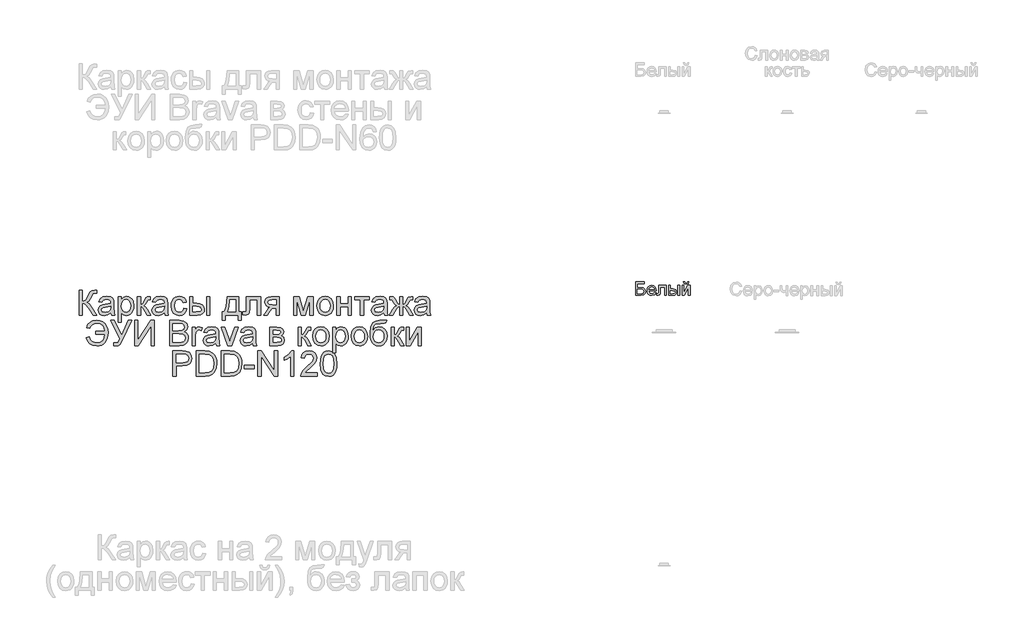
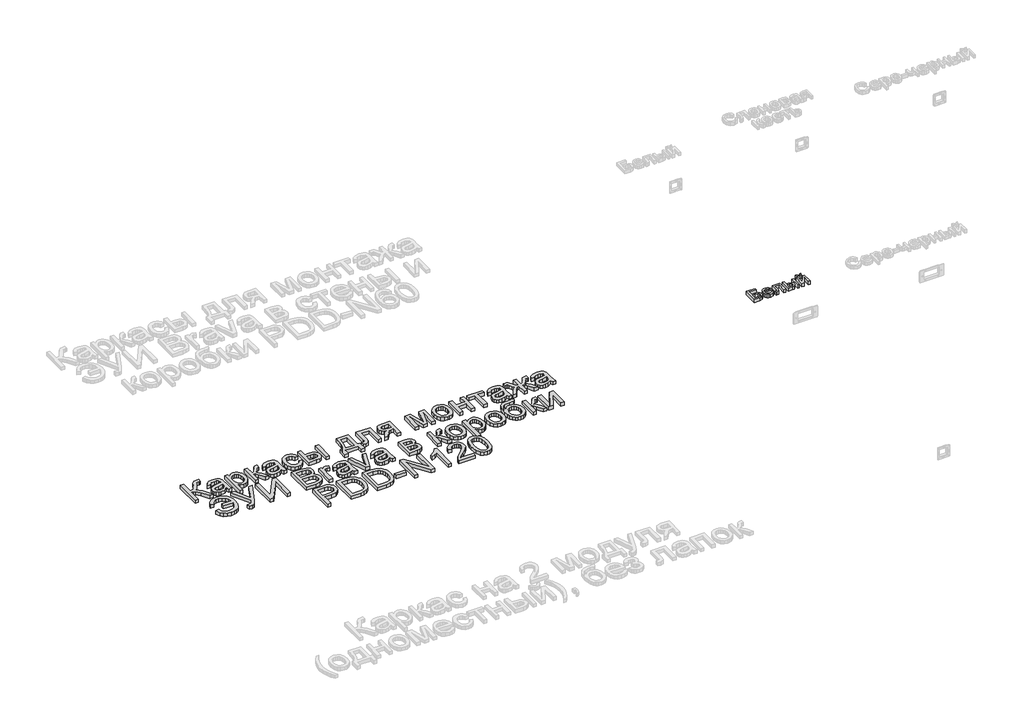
# One storey, part 15 of 47: 2 proxies.
"""IFC4 building model written with IfcOpenShell, lengths in millimetres."""

from ifc_helpers import new_model, si_unit, origin, origin_with_axes, place, context, project, spatial, polyline, outline, extrude, element, save

model = new_model("IFC4")

# Units and contexts
model_context = context("Model", 3, world=origin())
ifc_project = project(units=[si_unit("LENGTHUNIT", "METRE", prefix="MILLI")], contexts=[model_context])

# Site, building, storey
site = spatial("IfcSite", under=ifc_project)
building = spatial("IfcBuilding", under=site)
storey = spatial("IfcBuildingStorey", under=building, Name="Этаж 01", Elevation=0.0)

# Proxies
placement = place(None, origin())
element("IfcBuildingElementProxy", 1, Name="150 мм Arial", ObjectType="150 мм Arial", at=placement, inside=storey, context=model_context, shape_type="SweptSolid", body=[
    extrude(outline(polyline([(-3509.4486842, -4819.565055), (-3490.613126, -4819.565055), (-3490.613126, -4885.4895085), (-3477.8614163, -4884.2433083), (-3469.5518818, -4880.5047075), (-3454.8549961, -4855.2863967), (-3444.4623297, -4834.2251525), (-3432.6901059, -4823.7956979), (-3415.8595046, -4819.565055), (-3403.4986695, -4819.7857842), (-3403.4986695, -4838.6213423), (-3407.6557361, -4838.5109777), (-3411.8128026, -4838.4006131), (-3426.5280824, -4842.9255617), (-3437.7116951, -4862.3129428), (-3451.0474174, -4885.9309669), (-3464.0520459, -4893.7300652), (-3449.5115101, -4902.2465334), (-3435.1733093, -4919.9968397), (-3403.4986695, -4970.2495202), (-3425.3508601, -4970.2495202), (-3452.1326693, -4927.795938), (-3470.9866216, -4905.6310478), (-3479.6916293, -4901.1198948), (-3490.613126, -4899.6161771), (-3490.613126, -4970.2495202), (-3509.4486842, -4970.2495202), (-3509.4486842, -4819.565055)])), origin_with_axes(), (0.0, 0.0, 1.0), 20.0),
    extrude(outline(polyline([(-3318.7386579, -4956.1228516), (-3337.0039989, -4968.8883568), (-3357.1823263, -4972.603965), (-3372.9230772, -4970.3690819), (-3384.5343527, -4963.6644325), (-3391.694256, -4953.4832983), (-3394.0808905, -4940.8189606), (-3390.4756469, -4925.9197398), (-3381.0026855, -4915.1040091), (-3367.814116, -4908.9235916), (-3351.5169436, -4906.0909003), (-3318.8490225, -4899.6161771), (-3318.7386579, -4895.4223224), (-3320.0354419, -4887.0162188), (-3323.925794, -4881.516383), (-3332.6262032, -4877.4328928), (-3344.7479149, -4876.0717294), (-3363.8042023, -4879.6953671), (-3372.8908875, -4892.5528428), (-3391.7264457, -4890.1983981), (-3383.5778595, -4871.8042983), (-3367.1703225, -4861.0253558), (-3342.3198937, -4857.2361713), (-3319.4928159, -4860.5838974), (-3306.598552, -4868.990001), (-3300.8228047, -4881.7739004), (-3299.9030997, -4898.2550138), (-3299.9030997, -4921.6890968), (-3298.9466065, -4954.4122003), (-3295.1942102, -4970.2495202), (-3314.0297683, -4970.2495202), (-3318.7386579, -4956.1228516)]), holes=[polyline([(-3318.7386579, -4918.4517353), (-3349.1257107, -4924.2274826), (-3365.3309125, -4927.2809032), (-3372.6701583, -4932.2473101), (-3375.2453323, -4939.4945854), (-3369.6351319, -4949.6849167), (-3353.1724126, -4953.7684068), (-3334.1161253, -4949.2618524), (-3321.8288666, -4938.3541512), (-3318.8490225, -4923.7860242), (-3318.7386579, -4918.4517353)])]), origin_with_axes(), (0.0, 0.0, 1.0), 20.0),
    extrude(outline(polyline([(-3274.0042072, -5012.6295261), (-3274.0042072, -4859.5906161), (-3255.1686491, -4859.5906161), (-3255.1686491, -4878.0582922), (-3242.1456265, -4862.4417015), (-3224.5608671, -4857.2361713), (-3211.822953, -4859.0571872), (-3200.6853256, -4864.5202348), (-3191.6170344, -4873.2942204), (-3185.087129, -4885.0480501), (-3179.8264165, -4914.0739395), (-3181.31174, -4930.1825724), (-3185.7677107, -4944.589751), (-3193.0517742, -4956.56431), (-3203.0213763, -4965.3750838), (-3214.6326517, -4970.7967447), (-3226.8417355, -4972.603965), (-3243.2308783, -4967.7663167), (-3255.1686491, -4955.5342404), (-3255.1686491, -5012.6295261), (-3274.0042072, -5012.6295261)]), holes=[polyline([(-3255.1686491, -4915.8029849), (-3253.1315025, -4932.6887685), (-3247.0200629, -4944.4977805), (-3238.0023555, -4951.4507503), (-3227.2464057, -4953.7684068), (-3216.3157119, -4951.3679768), (-3207.0680782, -4944.1666868), (-3200.7635005, -4931.9254134), (-3198.6619746, -4914.4050333), (-3200.7129168, -4897.6112203), (-3206.8657431, -4885.6366613), (-3215.869655, -4878.4629624), (-3226.4738535, -4876.0717294), (-3237.1194387, -4878.6147137), (-3246.4682399, -4886.2436666), (-3252.9935468, -4898.7194648), (-3255.1686491, -4915.8029849)])]), origin_with_axes(), (0.0, 0.0, 1.0), 20.0),
    extrude(outline(polyline([(-3158.6364136, -4859.5906161), (-3139.8008554, -4859.5906161), (-3139.8008554, -4906.6795114), (-3127.182503, -4903.2949971), (-3116.8450189, -4883.5765221), (-3108.2549743, -4866.5619799), (-3100.6766052, -4861.0253558), (-3086.8994245, -4859.5906161), (-3083.2941809, -4859.5906161), (-3083.2941809, -4878.5365388), (-3088.3709525, -4878.4261742), (-3097.5680024, -4880.412737), (-3104.0427255, -4892.8103602), (-3111.6394887, -4906.2196589), (-3122.2896724, -4912.7863526), (-3110.407084, -4920.1164013), (-3098.7452247, -4935.5582481), (-3078.5852914, -4970.2495202), (-3099.9960235, -4970.2495202), (-3119.7512867, -4936.2940121), (-3129.6841005, -4921.9282201), (-3139.8008554, -4918.4517353), (-3139.8008554, -4970.2495202), (-3158.6364136, -4970.2495202), (-3158.6364136, -4859.5906161)])), origin_with_axes(), (0.0, 0.0, 1.0), 20.0),
    extrude(outline(polyline([(-2996.1797245, -4956.1228516), (-3014.4450655, -4968.8883568), (-3034.623393, -4972.603965), (-3050.3641438, -4970.3690819), (-3061.9754193, -4963.6644325), (-3069.1353227, -4953.4832983), (-3071.5219571, -4940.8189606), (-3067.9167135, -4925.9197398), (-3058.4437522, -4915.1040091), (-3045.2551826, -4908.9235916), (-3028.9580103, -4906.0909003), (-2996.2900891, -4899.6161771), (-2996.1797245, -4895.4223224), (-2997.4765085, -4887.0162188), (-3001.3668606, -4881.516383), (-3010.0672698, -4877.4328928), (-3022.1889815, -4876.0717294), (-3041.2452689, -4879.6953671), (-3050.3319542, -4892.5528428), (-3069.1675123, -4890.1983981), (-3061.0189261, -4871.8042983), (-3044.6113891, -4861.0253558), (-3019.7609604, -4857.2361713), (-2996.9338826, -4860.5838974), (-2984.0396186, -4868.990001), (-2978.2638713, -4881.7739004), (-2977.3441663, -4898.2550138), (-2977.3441663, -4921.6890968), (-2976.3876731, -4954.4122003), (-2972.6352768, -4970.2495202), (-2991.4708349, -4970.2495202), (-2996.1797245, -4956.1228516)]), holes=[polyline([(-2996.1797245, -4918.4517353), (-3026.5667773, -4924.2274826), (-3042.7719792, -4927.2809032), (-3050.111225, -4932.2473101), (-3052.6863989, -4939.4945854), (-3047.0761985, -4949.6849167), (-3030.6134792, -4953.7684068), (-3011.5571919, -4949.2618524), (-2999.2699332, -4938.3541512), (-2996.2900891, -4923.7860242), (-2996.1797245, -4918.4517353)])]), origin_with_axes(), (0.0, 0.0, 1.0), 20.0),
    extrude(outline(polyline([(-2880.8119308, -4930.2239591), (-2861.9763726, -4932.5784039), (-2867.2278881, -4949.3308303), (-2877.0963226, -4961.9905694), (-2890.6527742, -4969.9506161), (-2906.9683407, -4972.603965), (-2927.0041138, -4968.9021524), (-2942.6712883, -4957.7967147), (-2952.7834446, -4939.7750954), (-2956.1541634, -4915.3247383), (-2954.7148251, -4898.5631149), (-2950.3968102, -4884.0363746), (-2943.1311408, -4872.3055375), (-2932.848839, -4863.9316236), (-2920.5477848, -4858.9100344), (-2907.225858, -4857.2361713), (-2891.3103632, -4859.5354338), (-2878.5862447, -4866.4332212), (-2869.4581727, -4877.5616515), (-2864.3308174, -4892.5528428), (-2883.1663756, -4894.9072876), (-2891.9035729, -4880.7990131), (-2907.0787053, -4876.0717294), (-2919.2510008, -4878.3985831), (-2928.9125017, -4885.3791439), (-2935.2170794, -4897.3904911), (-2937.3186053, -4914.8097035), (-2935.2630646, -4932.4634408), (-2929.0964427, -4944.5161746), (-2919.6096857, -4951.4553488), (-2907.59374, -4953.7684068), (-2897.8402686, -4952.32447), (-2889.8434338, -4947.9926595), (-2884.0262997, -4940.6626107), (-2880.8119308, -4930.2239591)])), origin_with_axes(), (0.0, 0.0, 1.0), 20.0),
    extrude(outline(polyline([(-2845.4952593, -4859.5906161), (-2826.6597011, -4859.5906161), (-2826.6597011, -4899.6161771), (-2803.3727708, -4899.6161771), (-2783.2450271, -4901.9752204), (-2768.3320108, -4909.0523503), (-2759.1027712, -4920.2773497), (-2756.026358, -4935.0800015), (-2758.6061305, -4948.5582781), (-2766.345448, -4959.9304302), (-2779.7501482, -4967.6697477), (-2799.3260689, -4970.2495202), (-2845.4952593, -4970.2495202), (-2845.4952593, -4859.5906161)]), holes=[polyline([(-2826.6597011, -4951.4139621), (-2807.3091082, -4951.4139621), (-2782.3299207, -4947.4592306), (-2776.7289173, -4942.3962546), (-2774.8619162, -4935.1167897), (-2780.3985402, -4923.5285068), (-2789.2782919, -4919.7209282), (-2804.8442988, -4918.4517353), (-2826.6597011, -4918.4517353), (-2826.6597011, -4951.4139621)])]), origin_with_axes(), (0.0, 0.0, 1.0), 20.0),
    extrude(outline(polyline([(-2741.8996894, -4859.5906161), (-2723.0641313, -4859.5906161), (-2723.0641313, -4970.2495202), (-2741.8996894, -4970.2495202), (-2741.8996894, -4859.5906161)])), origin_with_axes(), (0.0, 0.0, 1.0), 20.0),
    extrude(outline(polyline([(-2619.4685614, -4859.5906161), (-2548.8352183, -4859.5906161), (-2548.8352183, -4951.4139621), (-2534.7085497, -4951.4139621), (-2534.7085497, -5000.8573022), (-2553.5441079, -5000.8573022), (-2553.5441079, -4970.2495202), (-2631.2407853, -4970.2495202), (-2631.2407853, -5000.8573022), (-2650.0763434, -5000.8573022), (-2650.0763434, -4951.4139621), (-2638.3041196, -4951.4139621), (-2629.7462647, -4935.9491227), (-2623.7543867, -4915.4902852), (-2619.4685614, -4859.5906161)]), holes=[polyline([(-2602.987448, -4878.4261742), (-2607.402032, -4921.339609), (-2617.1141167, -4951.4139621), (-2567.6707765, -4951.4139621), (-2567.6707765, -4878.4261742), (-2602.987448, -4878.4261742)])]), origin_with_axes(), (0.0, 0.0, 1.0), 20.0),
    extrude(outline(polyline([(-2504.1007677, -4859.5906161), (-2419.340756, -4859.5906161), (-2419.340756, -4970.1391556), (-2438.1763142, -4970.1391556), (-2438.1763142, -4878.4261742), (-2485.2652096, -4878.4261742), (-2485.2652096, -4931.2172405), (-2486.5344025, -4955.5710286), (-2493.5057663, -4965.8533304), (-2509.9868797, -4970.2495202), (-2525.2907707, -4969.293027), (-2525.2907707, -4951.4139621), (-2516.866273, -4951.4139621), (-2508.3498048, -4950.2551338), (-2504.9468963, -4946.5763138), (-2504.1007677, -4930.1503827), (-2504.1007677, -4859.5906161)])), origin_with_axes(), (0.0, 0.0, 1.0), 20.0),
    extrude(outline(polyline([(-2306.3274071, -4859.5906161), (-2306.3274071, -4970.2495202), (-2325.1629653, -4970.2495202), (-2325.1629653, -4927.8695144), (-2335.4268729, -4927.8695144), (-2349.4063888, -4930.2607473), (-2362.539776, -4946.3371905), (-2377.5493614, -4970.2495202), (-2399.3279755, -4970.2495202), (-2380.418841, -4940.0096202), (-2372.0679197, -4929.1571013), (-2364.379186, -4924.3378472), (-2377.2550558, -4920.3923128), (-2386.3049529, -4912.8967172), (-2391.6576359, -4902.9271151), (-2393.4418636, -4891.5595614), (-2391.0046454, -4878.6652975), (-2383.6929907, -4868.4565721), (-2371.764417, -4861.8071051), (-2355.4764417, -4859.5906161), (-2306.3274071, -4859.5906161)]), holes=[polyline([(-2325.1629653, -4878.4261742), (-2349.995, -4878.4261742), (-2362.820286, -4879.5160246), (-2370.099751, -4882.7855759), (-2374.6063054, -4892.9943012), (-2372.9462379, -4900.1725987), (-2367.9660354, -4905.1528012), (-2344.4399818, -4909.0339562), (-2325.1629653, -4909.0339562), (-2325.1629653, -4878.4261742)])]), origin_with_axes(), (0.0, 0.0, 1.0), 20.0),
    extrude(outline(polyline([(-2219.2129507, -4859.5906161), (-2186.8025469, -4859.5906161), (-2161.8233594, -4948.1766005), (-2134.8943974, -4859.5906161), (-2103.845157, -4859.5906161), (-2103.845157, -4970.2495202), (-2122.6807151, -4970.2495202), (-2122.6807151, -4881.148501), (-2149.75683, -4970.2495202), (-2174.4785001, -4970.2495202), (-2200.3773925, -4876.8810698), (-2200.3773925, -4970.2495202), (-2219.2129507, -4970.2495202), (-2219.2129507, -4859.5906161)])), origin_with_axes(), (0.0, 0.0, 1.0), 20.0),
    extrude(outline(polyline([(-2080.3007093, -4914.9200681), (-2076.2264162, -4888.2394264), (-2064.0035369, -4869.4866417), (-2048.901981, -4860.2987889), (-2030.8205809, -4857.2361713), (-2011.0331281, -4860.965575), (-1995.2279979, -4872.1537862), (-1984.8675212, -4889.917888), (-1981.414029, -4913.3749638), (-1982.9407393, -4932.40366), (-1987.5208701, -4946.8890135), (-1995.0210643, -4957.7369338), (-2005.3079646, -4965.8533304), (-2017.5262453, -4970.9163063), (-2030.8205809, -4972.603965), (-2050.8471571, -4968.8883568), (-2066.6338932, -4957.7415324), (-2076.8840053, -4939.60495), (-2080.3007093, -4914.9200681)]), holes=[polyline([(-2061.4651511, -4914.8832799), (-2059.2854503, -4931.9300119), (-2052.7463479, -4944.0747163), (-2042.9055045, -4951.3449842), (-2030.8205809, -4953.7684068), (-2018.7908397, -4951.3311886), (-2008.9683904, -4944.019534), (-2002.429288, -4931.7138812), (-2000.2495871, -4914.2946687), (-2002.4430835, -4897.7445775), (-2009.0235727, -4885.76542), (-2018.8598176, -4878.4951521), (-2030.8205809, -4876.0717294), (-2042.9055045, -4878.485955), (-2052.7463479, -4885.7286318), (-2059.2854503, -4897.845745), (-2061.4651511, -4914.8832799)])]), origin_with_axes(), (0.0, 0.0, 1.0), 20.0),
    extrude(outline(polyline([(-1960.2240261, -4859.5906161), (-1941.3884679, -4859.5906161), (-1941.3884679, -4901.9706219), (-1891.9451278, -4901.9706219), (-1891.9451278, -4859.5906161), (-1873.1095696, -4859.5906161), (-1873.1095696, -4970.2495202), (-1891.9451278, -4970.2495202), (-1891.9451278, -4920.8061801), (-1941.3884679, -4920.8061801), (-1941.3884679, -4970.2495202), (-1960.2240261, -4970.2495202), (-1960.2240261, -4859.5906161)])), origin_with_axes(), (0.0, 0.0, 1.0), 20.0),
    extrude(outline(polyline([(-1854.2740115, -4859.5906161), (-1764.8051102, -4859.5906161), (-1764.8051102, -4878.4261742), (-1800.1217818, -4878.4261742), (-1800.1217818, -4970.2495202), (-1818.9573399, -4970.2495202), (-1818.9573399, -4878.4261742), (-1854.2740115, -4878.4261742), (-1854.2740115, -4859.5906161)])), origin_with_axes(), (0.0, 0.0, 1.0), 20.0),
    extrude(outline(polyline([(-1677.6906538, -4956.1228516), (-1695.9559948, -4968.8883568), (-1716.1343223, -4972.603965), (-1731.8750731, -4970.3690819), (-1743.4863486, -4963.6644325), (-1750.6462519, -4953.4832983), (-1753.0328864, -4940.8189606), (-1749.4276428, -4925.9197398), (-1739.9546815, -4915.1040091), (-1726.7661119, -4908.9235916), (-1710.4689395, -4906.0909003), (-1677.8010184, -4899.6161771), (-1677.6906538, -4895.4223224), (-1678.9874378, -4887.0162188), (-1682.8777899, -4881.516383), (-1691.5781991, -4877.4328928), (-1703.6999108, -4876.0717294), (-1722.7561982, -4879.6953671), (-1731.8428835, -4892.5528428), (-1750.6784416, -4890.1983981), (-1742.5298554, -4871.8042983), (-1726.1223184, -4861.0253558), (-1701.2718897, -4857.2361713), (-1678.4448119, -4860.5838974), (-1665.5505479, -4868.990001), (-1659.7748006, -4881.7739004), (-1658.8550956, -4898.2550138), (-1658.8550956, -4921.6890968), (-1657.8986024, -4954.4122003), (-1654.1462061, -4970.2495202), (-1672.9817642, -4970.2495202), (-1677.6906538, -4956.1228516)]), holes=[polyline([(-1677.6906538, -4918.4517353), (-1708.0777066, -4924.2274826), (-1724.2829085, -4927.2809032), (-1731.6221543, -4932.2473101), (-1734.1973282, -4939.4945854), (-1728.5871278, -4949.6849167), (-1712.1244085, -4953.7684068), (-1693.0681212, -4949.2618524), (-1680.7808625, -4938.3541512), (-1677.8010184, -4923.7860242), (-1677.6906538, -4918.4517353)])]), origin_with_axes(), (0.0, 0.0, 1.0), 20.0),
    extrude(outline(polyline([(-1564.6773048, -4859.5906161), (-1564.6773048, -4906.6795114), (-1553.6960273, -4902.7983564), (-1543.3033609, -4882.6568172), (-1530.9057377, -4863.3430124), (-1513.2841901, -4859.5906161), (-1505.8161856, -4859.5906161), (-1505.8161856, -4878.5365388), (-1511.0033218, -4878.4261742), (-1520.7154064, -4880.3759488), (-1527.4476469, -4892.589631), (-1535.2651393, -4905.9805357), (-1546.4303579, -4912.7863526), (-1534.1155081, -4920.1164013), (-1522.113358, -4935.5582481), (-1501.1072961, -4970.2495202), (-1522.7019692, -4970.2495202), (-1543.3769373, -4936.0364947), (-1553.9167565, -4921.8178555), (-1564.6773048, -4918.4517353), (-1564.6773048, -4970.2495202), (-1583.512863, -4970.2495202), (-1583.512863, -4918.4517353), (-1594.2366232, -4921.7442791), (-1604.8500187, -4935.9629183), (-1625.5249869, -4970.2495202), (-1647.0828718, -4970.2495202), (-1626.1503862, -4935.5582481), (-1614.0562657, -4920.1164013), (-1601.6862336, -4912.7863526), (-1613.5320338, -4905.2815599), (-1623.6855769, -4885.9677551), (-1628.6519838, -4879.6033966), (-1636.7821759, -4878.3158096), (-1642.3739822, -4878.4261742), (-1642.3739822, -4859.5906161), (-1639.5412909, -4859.5906161), (-1623.0233893, -4860.7678384), (-1614.4517388, -4865.7710336), (-1604.8500187, -4882.6568172), (-1594.567717, -4902.6695977), (-1583.512863, -4906.6795114), (-1583.512863, -4859.5906161), (-1564.6773048, -4859.5906161)])), origin_with_axes(), (0.0, 0.0, 1.0), 20.0),
    extrude(outline(polyline([(-1421.0561739, -4956.1228516), (-1439.321515, -4968.8883568), (-1459.4998424, -4972.603965), (-1475.2405933, -4970.3690819), (-1486.8518688, -4963.6644325), (-1494.0117721, -4953.4832983), (-1496.3984065, -4940.8189606), (-1492.793163, -4925.9197398), (-1483.3202016, -4915.1040091), (-1470.1316321, -4908.9235916), (-1453.8344597, -4906.0909003), (-1421.1665385, -4899.6161771), (-1421.0561739, -4895.4223224), (-1422.352958, -4887.0162188), (-1426.2433101, -4881.516383), (-1434.9437193, -4877.4328928), (-1447.065431, -4876.0717294), (-1466.1217183, -4879.6953671), (-1475.2084036, -4892.5528428), (-1494.0439618, -4890.1983981), (-1485.8953756, -4871.8042983), (-1469.4878386, -4861.0253558), (-1444.6374098, -4857.2361713), (-1421.810332, -4860.5838974), (-1408.9160681, -4868.990001), (-1403.1403208, -4881.7739004), (-1402.2206158, -4898.2550138), (-1402.2206158, -4921.6890968), (-1401.2641226, -4954.4122003), (-1397.5117262, -4970.2495202), (-1416.3472844, -4970.2495202), (-1421.0561739, -4956.1228516)]), holes=[polyline([(-1421.0561739, -4918.4517353), (-1451.4432267, -4924.2274826), (-1467.6484286, -4927.2809032), (-1474.9876744, -4932.2473101), (-1477.5628484, -4939.4945854), (-1471.952648, -4949.6849167), (-1455.4899287, -4953.7684068), (-1436.4336413, -4949.2618524), (-1424.1463827, -4938.3541512), (-1421.1665385, -4923.7860242), (-1421.0561739, -4918.4517353)])]), origin_with_axes(), (0.0, 0.0, 1.0), 20.0),
    extrude(outline(polyline([(-3410.5620038, -5066.0972905), (-3354.0553294, -5066.0972905), (-3358.2031989, -5046.6685226), (-3368.1452098, -5031.7187181), (-3383.4307067, -5022.1859759), (-3403.6090341, -5019.0083951), (-3418.8186554, -5020.9213815), (-3430.9334693, -5026.6603406), (-3439.953476, -5036.2252725), (-3445.8786754, -5049.6161771), (-3464.7142335, -5044.9072876), (-3456.6576178, -5026.1636999), (-3443.5242306, -5012.0186372), (-3425.9486683, -5003.134287), (-3404.5655273, -5000.172837), (-3384.0285149, -5002.8905652), (-3366.5633172, -5011.0437499), (-3352.6895675, -5023.4229791), (-3342.926899, -5038.8188406), (-3337.1465532, -5056.6197306), (-3335.2197712, -5076.2140454), (-3338.7054531, -5107.1023374), (-3351.4433672, -5132.6655375), (-3361.2635172, -5142.6845738), (-3373.3599371, -5149.8410282), (-3387.7326268, -5154.1349009), (-3404.3815863, -5155.5661917), (-3426.9235556, -5152.475983), (-3444.885394, -5143.2053567), (-3458.2671016, -5127.7543129), (-3467.0686783, -5106.1228516), (-3448.2331202, -5101.4139621), (-3441.8687616, -5116.8650059), (-3432.0831006, -5127.9014657), (-3418.8761369, -5134.5233416), (-3402.2478708, -5136.7306336), (-3383.4674949, -5133.2633458), (-3368.4027272, -5122.8614824), (-3358.2123959, -5106.4447483), (-3354.0553294, -5084.9328487), (-3410.5620038, -5084.9328487), (-3410.5620038, -5066.0972905)])), origin_with_axes(), (0.0, 0.0, 1.0), 20.0),
    extrude(outline(polyline([(-3319.9158802, -5002.5272818), (-3299.0569711, -5002.5272818), (-3253.9914267, -5091.7754538), (-3213.4508308, -5002.5272818), (-3192.7758627, -5002.5272818), (-3249.981513, -5119.9184264), (-3265.5429214, -5148.7603748), (-3272.9281524, -5153.8647375), (-3282.9437397, -5155.5661917), (-3299.9030997, -5153.211747), (-3299.9030997, -5136.7306336), (-3285.0774553, -5136.7306336), (-3274.0777836, -5132.5367788), (-3263.8874524, -5113.4437033), (-3319.9158802, -5002.5272818)])), origin_with_axes(), (0.0, 0.0, 1.0), 20.0),
    extrude(outline(polyline([(-3175.1175269, -5002.5272818), (-3156.2819688, -5002.5272818), (-3156.2819688, -5121.868201), (-3077.408069, -5002.5272818), (-3057.3952885, -5002.5272818), (-3057.3952885, -5153.211747), (-3076.2308466, -5153.211747), (-3076.2308466, -5034.2019215), (-3154.9208054, -5153.211747), (-3175.1175269, -5153.211747), (-3175.1175269, -5002.5272818)])), origin_with_axes(), (0.0, 0.0, 1.0), 20.0),
    extrude(outline(polyline([(-2965.5719425, -5153.211747), (-2965.5719425, -5002.5272818), (-2908.0719866, -5002.5272818), (-2879.9106199, -5006.9602598), (-2870.4468556, -5012.5842558), (-2863.2823537, -5020.5902877), (-2857.2674831, -5039.8673043), (-2862.3258605, -5057.4704577), (-2877.6113574, -5070.8061801), (-2866.9381811, -5076.3795923), (-2859.0517108, -5084.8592723), (-2854.1818729, -5095.6842), (-2852.5585936, -5108.2933554), (-2856.9915716, -5128.5452592), (-2867.9728492, -5142.9662334), (-2884.361992, -5150.6181789), (-2908.513445, -5153.211747), (-2965.5719425, -5153.211747)]), holes=[polyline([(-2946.7363843, -5063.7428458), (-2912.3394178, -5063.7428458), (-2892.2530608, -5062.124165), (-2880.1681373, -5055.1528012), (-2876.1030413, -5042.8839366), (-2879.8922258, -5030.596678), (-2890.7447447, -5023.3310086), (-2914.9513799, -5021.3628399), (-2946.7363843, -5021.3628399), (-2946.7363843, -5063.7428458)]), polyline([(-2946.7363843, -5134.3761888), (-2908.1087748, -5134.3761888), (-2894.129259, -5133.6404248), (-2882.3018529, -5129.5385406), (-2874.4659664, -5121.1692252), (-2871.3941517, -5108.4772964), (-2874.9993953, -5093.835593), (-2886.6796486, -5085.0983956), (-2909.9481848, -5082.5784039), (-2946.7363843, -5082.5784039), (-2946.7363843, -5134.3761888)])]), origin_with_axes(), (0.0, 0.0, 1.0), 20.0),
    extrude(outline(polyline([(-2829.0141459, -5153.211747), (-2829.0141459, -5042.5528428), (-2812.5330325, -5042.5528428), (-2812.5330325, -5058.9235916), (-2800.834385, -5043.8404298), (-2789.0621612, -5040.1983981), (-2770.1530266, -5046.0109336), (-2776.4438088, -5062.8967172), (-2789.6875606, -5059.0339562), (-2800.3377443, -5062.7495644), (-2807.1251672, -5073.0502602), (-2810.1785877, -5095.0496035), (-2810.1785877, -5153.211747), (-2829.0141459, -5153.211747)])), origin_with_axes(), (0.0, 0.0, 1.0), 20.0),
    extrude(outline(polyline([(-2687.7474597, -5139.0850784), (-2706.0128008, -5151.8505836), (-2726.1911282, -5155.5661917), (-2741.9318791, -5153.3313086), (-2753.5431546, -5146.6266593), (-2760.7030579, -5136.445525), (-2763.0896923, -5123.7811874), (-2759.4844488, -5108.8819666), (-2750.0114874, -5098.0662359), (-2736.8229179, -5091.8858184), (-2720.5257455, -5089.053127), (-2687.8578243, -5082.5784039), (-2687.7474597, -5078.3845492), (-2689.0442438, -5069.9784456), (-2692.9345959, -5064.4786097), (-2701.635005, -5060.3951196), (-2713.7567168, -5059.0339562), (-2732.8130041, -5062.6575939), (-2741.8996894, -5075.5150696), (-2760.7352476, -5073.1606248), (-2752.5866614, -5054.7665251), (-2736.1791244, -5043.9875826), (-2711.3286956, -5040.1983981), (-2688.5016178, -5043.5461242), (-2675.6073539, -5051.9522278), (-2669.8316066, -5064.7361271), (-2668.9119016, -5081.2172405), (-2668.9119016, -5104.6513236), (-2667.9554084, -5137.3744271), (-2664.203012, -5153.211747), (-2683.0385702, -5153.211747), (-2687.7474597, -5139.0850784)]), holes=[polyline([(-2687.7474597, -5101.4139621), (-2718.1345125, -5107.1897094), (-2734.3397144, -5110.2431299), (-2741.6789602, -5115.2095369), (-2744.2541342, -5122.4568122), (-2738.6439338, -5132.6471434), (-2722.1812145, -5136.7306336), (-2703.1249271, -5132.2240792), (-2690.8376685, -5121.316378), (-2687.8578243, -5106.748251), (-2687.7474597, -5101.4139621)])]), origin_with_axes(), (0.0, 0.0, 1.0), 20.0),
    extrude(outline(polyline([(-2615.8633179, -5153.211747), (-2654.785233, -5042.5528428), (-2634.8460288, -5042.5528428), (-2611.2647929, -5108.8451784), (-2604.1646704, -5131.1388273), (-2597.2117007, -5110.0959771), (-2573.483312, -5042.5528428), (-2553.5441079, -5042.5528428), (-2591.9877764, -5153.211747), (-2615.8633179, -5153.211747)])), origin_with_axes(), (0.0, 0.0, 1.0), 20.0),
    extrude(outline(polyline([(-2466.4296514, -5139.0850784), (-2484.6949925, -5151.8505836), (-2504.8733199, -5155.5661917), (-2520.6140708, -5153.3313086), (-2532.2253463, -5146.6266593), (-2539.3852496, -5136.445525), (-2541.771884, -5123.7811874), (-2538.1666405, -5108.8819666), (-2528.6936791, -5098.0662359), (-2515.5051096, -5091.8858184), (-2499.2079372, -5089.053127), (-2466.540016, -5082.5784039), (-2466.4296514, -5078.3845492), (-2467.7264355, -5069.9784456), (-2471.6167876, -5064.4786097), (-2480.3171967, -5060.3951196), (-2492.4389085, -5059.0339562), (-2511.4951958, -5062.6575939), (-2520.5818811, -5075.5150696), (-2539.4174393, -5073.1606248), (-2531.2688531, -5054.7665251), (-2514.8613161, -5043.9875826), (-2490.0108873, -5040.1983981), (-2467.1838095, -5043.5461242), (-2454.2895456, -5051.9522278), (-2448.5137983, -5064.7361271), (-2447.5940933, -5081.2172405), (-2447.5940933, -5104.6513236), (-2446.6376001, -5137.3744271), (-2442.8852037, -5153.211747), (-2461.7207619, -5153.211747), (-2466.4296514, -5139.0850784)]), holes=[polyline([(-2466.4296514, -5101.4139621), (-2496.8167042, -5107.1897094), (-2513.0219061, -5110.2431299), (-2520.3611519, -5115.2095369), (-2522.9363259, -5122.4568122), (-2517.3261255, -5132.6471434), (-2500.8634062, -5136.7306336), (-2481.8071188, -5132.2240792), (-2469.5198602, -5121.316378), (-2466.540016, -5106.748251), (-2466.4296514, -5101.4139621)])]), origin_with_axes(), (0.0, 0.0, 1.0), 20.0),
    extrude(outline(polyline([(-2362.8340816, -5042.5528428), (-2321.3369925, -5042.5528428), (-2298.5834911, -5045.0728345), (-2285.7811977, -5054.3066726), (-2280.4285147, -5070.4015099), (-2283.6658762, -5083.4797148), (-2293.4147491, -5092.8055234), (-2280.7596085, -5103.0142487), (-2275.7196251, -5120.764555), (-2278.9110014, -5135.1211499), (-2286.4985676, -5145.2287077), (-2298.5099147, -5151.2159872), (-2314.972634, -5153.211747), (-2362.8340816, -5153.211747), (-2362.8340816, -5042.5528428)]), holes=[polyline([(-2343.9985234, -5084.9328487), (-2325.3836945, -5084.9328487), (-2310.0246212, -5083.9763555), (-2302.5566167, -5080.1503827), (-2299.2640728, -5073.2342012), (-2300.7080096, -5067.6148037), (-2305.0398201, -5064.0003631), (-2324.7950833, -5061.388401), (-2343.9985234, -5061.388401), (-2343.9985234, -5084.9328487)]), polyline([(-2343.9985234, -5134.3761888), (-2320.8955341, -5134.3761888), (-2300.404507, -5130.9732804), (-2296.164667, -5126.3333687), (-2294.5551833, -5119.2194506), (-2297.7741507, -5110.1511594), (-2306.1618602, -5104.8720528), (-2322.7349441, -5103.7684068), (-2343.9985234, -5103.7684068), (-2343.9985234, -5134.3761888)])]), origin_with_axes(), (0.0, 0.0, 1.0), 20.0),
    extrude(outline(polyline([(-2193.3140582, -5042.5528428), (-2174.4785001, -5042.5528428), (-2174.4785001, -5089.6417382), (-2161.8601476, -5086.2572239), (-2151.5226636, -5066.5387489), (-2142.932619, -5049.5242066), (-2135.3542499, -5043.9875826), (-2121.5770691, -5042.5528428), (-2117.9718256, -5042.5528428), (-2117.9718256, -5061.4987656), (-2123.0485971, -5061.388401), (-2132.245647, -5063.3749638), (-2138.7203701, -5075.772587), (-2146.3171333, -5089.1818857), (-2156.9673171, -5095.7485793), (-2145.0847286, -5103.0786281), (-2133.4228694, -5118.5204748), (-2113.2629361, -5153.211747), (-2134.6736682, -5153.211747), (-2154.4289313, -5119.2562388), (-2164.3617452, -5104.8904469), (-2174.4785001, -5101.4139621), (-2174.4785001, -5153.211747), (-2193.3140582, -5153.211747), (-2193.3140582, -5042.5528428)])), origin_with_axes(), (0.0, 0.0, 1.0), 20.0),
    extrude(outline(polyline([(-2106.1996018, -5097.8822949), (-2102.1253087, -5071.2016532), (-2089.9024294, -5052.4488685), (-2074.8008735, -5043.2610157), (-2056.7194734, -5040.1983981), (-2036.9320206, -5043.9278018), (-2021.1268904, -5055.116013), (-2010.7664137, -5072.8801148), (-2007.3129214, -5096.3371905), (-2008.8396317, -5115.3658867), (-2013.4197626, -5129.8512403), (-2020.9199567, -5140.6991606), (-2031.206857, -5148.8155571), (-2043.4251378, -5153.8785331), (-2056.7194734, -5155.5661917), (-2076.7460495, -5151.8505836), (-2092.5327856, -5140.7037591), (-2102.7828977, -5122.5671768), (-2106.1996018, -5097.8822949)]), holes=[polyline([(-2087.3640436, -5097.8455067), (-2085.1843428, -5114.8922387), (-2078.6452403, -5127.036943), (-2068.8043969, -5134.307211), (-2056.7194734, -5136.7306336), (-2044.6897322, -5134.2934154), (-2034.8672829, -5126.9817607), (-2028.3281804, -5114.676108), (-2026.1484796, -5097.2568955), (-2028.341976, -5080.7068043), (-2034.9224652, -5068.7276468), (-2044.75871, -5061.4573789), (-2056.7194734, -5059.0339562), (-2068.8043969, -5061.4481818), (-2078.6452403, -5068.6908586), (-2085.1843428, -5080.8079718), (-2087.3640436, -5097.8455067)])]), origin_with_axes(), (0.0, 0.0, 1.0), 20.0),
    extrude(outline(polyline([(-1986.1229185, -5195.5917528), (-1986.1229185, -5042.5528428), (-1967.2873604, -5042.5528428), (-1967.2873604, -5061.020519), (-1954.2643377, -5045.4039283), (-1936.6795784, -5040.1983981), (-1923.9416643, -5042.0194139), (-1912.8040369, -5047.4824616), (-1903.7357457, -5056.2564471), (-1897.2058403, -5068.0102769), (-1891.9451278, -5097.0361663), (-1893.4304513, -5113.1447992), (-1897.886422, -5127.5519778), (-1905.1704855, -5139.5265368), (-1915.1400876, -5148.3373105), (-1926.751363, -5153.7589714), (-1938.9604467, -5155.5661917), (-1955.3495896, -5150.7285435), (-1967.2873604, -5138.4964672), (-1967.2873604, -5195.5917528), (-1986.1229185, -5195.5917528)]), holes=[polyline([(-1967.2873604, -5098.7652117), (-1965.2502138, -5115.6509953), (-1959.1387742, -5127.4600073), (-1950.1210668, -5134.412977), (-1939.3651169, -5136.7306336), (-1928.4344232, -5134.3302036), (-1919.1867895, -5127.1289135), (-1912.8822118, -5114.8876401), (-1910.7806859, -5097.3672601), (-1912.831628, -5080.573447), (-1918.9844544, -5068.5988881), (-1927.9883662, -5061.4251892), (-1938.5925647, -5059.0339562), (-1949.23815, -5061.5769405), (-1958.5869512, -5069.2058934), (-1965.1122581, -5081.6816915), (-1967.2873604, -5098.7652117)])]), origin_with_axes(), (0.0, 0.0, 1.0), 20.0),
    extrude(outline(polyline([(-1875.4640144, -5097.8822949), (-1871.3897213, -5071.2016532), (-1859.166842, -5052.4488685), (-1844.0652861, -5043.2610157), (-1825.983886, -5040.1983981), (-1806.1964332, -5043.9278018), (-1790.391303, -5055.116013), (-1780.0308263, -5072.8801148), (-1776.5773341, -5096.3371905), (-1778.1040444, -5115.3658867), (-1782.6841752, -5129.8512403), (-1790.1843694, -5140.6991606), (-1800.4712697, -5148.8155571), (-1812.6895504, -5153.8785331), (-1825.983886, -5155.5661917), (-1846.0104621, -5151.8505836), (-1861.7971983, -5140.7037591), (-1872.0473103, -5122.5671768), (-1875.4640144, -5097.8822949)]), holes=[polyline([(-1856.6284562, -5097.8455067), (-1854.4487554, -5114.8922387), (-1847.9096529, -5127.036943), (-1838.0688096, -5134.307211), (-1825.983886, -5136.7306336), (-1813.9541448, -5134.2934154), (-1804.1316955, -5126.9817607), (-1797.592593, -5114.676108), (-1795.4128922, -5097.2568955), (-1797.6063886, -5080.7068043), (-1804.1868778, -5068.7276468), (-1814.0231227, -5061.4573789), (-1825.983886, -5059.0339562), (-1838.0688096, -5061.4481818), (-1847.9096529, -5068.6908586), (-1854.4487554, -5080.8079718), (-1856.6284562, -5097.8455067)])]), origin_with_axes(), (0.0, 0.0, 1.0), 20.0),
    extrude(outline(polyline([(-1677.6906538, -5000.172837), (-1661.2095404, -5000.172837), (-1666.0655827, -5014.8697227), (-1675.6673028, -5020.1856175), (-1698.7335039, -5021.3628399), (-1729.8011384, -5025.7038474), (-1736.928852, -5031.3508361), (-1741.720515, -5039.6097869), (-1745.7488229, -5064.2210923), (-1729.4332564, -5046.1948746), (-1719.5142381, -5041.6975172), (-1708.4088004, -5040.1983981), (-1688.8098871, -5044.0105752), (-1672.9081878, -5055.4471068), (-1662.3683687, -5073.3859525), (-1658.8550956, -5096.7050725), (-1660.5979366, -5114.685305), (-1665.8264594, -5129.1154763), (-1682.3627551, -5148.6684043), (-1693.6567324, -5153.8417449), (-1708.4088004, -5155.5661917), (-1725.4095471, -5153.3451042), (-1738.1520597, -5146.6818416), (-1747.528452, -5136.5558896), (-1754.430838, -5123.9467343), (-1758.679875, -5104.9594248), (-1760.0962207, -5075.6990106), (-1756.5231668, -5039.5592031), (-1745.8040052, -5017.5184731), (-1727.6720213, -5006.2750796), (-1701.8605009, -5002.5272818), (-1680.8912271, -5002.1042175), (-1677.6906538, -5000.172837)]), holes=[polyline([(-1677.6906538, -5096.1164613), (-1679.7323988, -5081.2954154), (-1685.8576341, -5069.4266226), (-1695.6984774, -5061.6321228), (-1708.887047, -5059.0339562), (-1722.6366365, -5061.7792756), (-1732.8361648, -5070.0152338), (-1739.1545381, -5082.8405198), (-1741.2606625, -5099.3538229), (-1738.9338089, -5115.3612882), (-1731.9532481, -5127.1105194), (-1721.5605817, -5134.325605), (-1708.9974116, -5136.7306336), (-1696.3698621, -5133.948526), (-1686.3726689, -5125.6022032), (-1679.8611575, -5112.6665526), (-1677.6906538, -5096.1164613)])]), origin_with_axes(), (0.0, 0.0, 1.0), 20.0),
    extrude(outline(polyline([(-1635.3106479, -5042.5528428), (-1616.4750898, -5042.5528428), (-1616.4750898, -5089.6417382), (-1603.8567373, -5086.2572239), (-1593.5192533, -5066.5387489), (-1584.9292087, -5049.5242066), (-1577.3508396, -5043.9875826), (-1563.5736589, -5042.5528428), (-1559.9684153, -5042.5528428), (-1559.9684153, -5061.4987656), (-1565.0451868, -5061.388401), (-1574.2422367, -5063.3749638), (-1580.7169598, -5075.772587), (-1588.313723, -5089.1818857), (-1598.9639068, -5095.7485793), (-1587.0813184, -5103.0786281), (-1575.4194591, -5118.5204748), (-1555.2595258, -5153.211747), (-1576.6702579, -5153.211747), (-1596.425521, -5119.2562388), (-1606.3583349, -5104.8904469), (-1616.4750898, -5101.4139621), (-1616.4750898, -5153.211747), (-1635.3106479, -5153.211747), (-1635.3106479, -5042.5528428)])), origin_with_axes(), (0.0, 0.0, 1.0), 20.0),
    extrude(outline(polyline([(-1543.4873019, -5042.5528428), (-1524.6517438, -5042.5528428), (-1524.6517438, -5126.9449725), (-1478.3721888, -5042.5528428), (-1454.0184007, -5042.5528428), (-1454.0184007, -5153.211747), (-1472.8539589, -5153.211747), (-1472.8539589, -5069.3346521), (-1518.8392083, -5153.211747), (-1543.4873019, -5153.211747), (-1543.4873019, -5042.5528428)])), origin_with_axes(), (0.0, 0.0, 1.0), 20.0),
    extrude(outline(polyline([(-2945.5591619, -5336.1739737), (-2945.5591619, -5185.4895085), (-2889.7146751, -5185.4895085), (-2867.200297, -5186.9242483), (-2848.8981677, -5193.9691885), (-2837.0339734, -5208.5373155), (-2832.545813, -5229.0835249), (-2835.576241, -5246.8430283), (-2844.6675248, -5261.6410815), (-2861.6682715, -5271.6290777), (-2888.4270881, -5274.9584097), (-2926.7236038, -5274.9584097), (-2926.7236038, -5336.1739737), (-2945.5591619, -5336.1739737)]), holes=[polyline([(-2926.7236038, -5256.1228516), (-2887.3234421, -5256.1228516), (-2870.6215995, -5254.3938062), (-2859.5851397, -5249.2066701), (-2853.4323133, -5240.8833399), (-2851.3813712, -5229.7457125), (-2856.2190194, -5214.1475159), (-2868.9293424, -5205.6126537), (-2887.7649005, -5204.3250667), (-2926.7236038, -5204.3250667), (-2926.7236038, -5256.1228516)])]), origin_with_axes(), (0.0, 0.0, 1.0), 20.0),
    extrude(outline(polyline([(-2806.6469206, -5336.1739737), (-2806.6469206, -5185.4895085), (-2754.6651946, -5185.4895085), (-2727.7730208, -5187.6600123), (-2705.6265247, -5198.4389548), (-2695.2062672, -5209.916873), (-2687.7842479, -5224.1906944), (-2683.3420728, -5240.9845075), (-2681.8613478, -5260.0224007), (-2685.8712616, -5290.4278476), (-2696.1719574, -5312.3720087), (-2709.930744, -5326.0388248), (-2727.9385677, -5333.5987998), (-2752.1635971, -5336.1739737), (-2806.6469206, -5336.1739737)]), holes=[polyline([(-2787.8113624, -5317.3384156), (-2754.4812537, -5317.3384156), (-2730.2378302, -5314.6160888), (-2716.2583144, -5306.9273551), (-2704.7987902, -5288.2205557), (-2700.696906, -5259.7280951), (-2702.7064614, -5239.2002798), (-2708.7351276, -5224.0435416), (-2717.6424704, -5213.6324812), (-2728.2880556, -5207.341699), (-2754.9962884, -5204.3250667), (-2787.8113624, -5204.3250667), (-2787.8113624, -5317.3384156)])]), origin_with_axes(), (0.0, 0.0, 1.0), 20.0),
    extrude(outline(polyline([(-2655.9624553, -5336.1739737), (-2655.9624553, -5185.4895085), (-2603.9807294, -5185.4895085), (-2577.0885556, -5187.6600123), (-2554.9420595, -5198.4389548), (-2544.521802, -5209.916873), (-2537.0997827, -5224.1906944), (-2532.6576076, -5240.9845075), (-2531.1768826, -5260.0224007), (-2535.1867963, -5290.4278476), (-2545.4874922, -5312.3720087), (-2559.2462788, -5326.0388248), (-2577.2541025, -5333.5987998), (-2601.4791319, -5336.1739737), (-2655.9624553, -5336.1739737)]), holes=[polyline([(-2637.1268972, -5317.3384156), (-2603.7967884, -5317.3384156), (-2579.5533649, -5314.6160888), (-2565.5738491, -5306.9273551), (-2554.114325, -5288.2205557), (-2550.0124407, -5259.7280951), (-2552.0219961, -5239.2002798), (-2558.0506623, -5224.0435416), (-2566.9580051, -5213.6324812), (-2577.6035904, -5207.341699), (-2604.3118232, -5204.3250667), (-2637.1268972, -5204.3250667), (-2637.1268972, -5317.3384156)])]), origin_with_axes(), (0.0, 0.0, 1.0), 20.0),
    extrude(outline(polyline([(-2517.050214, -5291.4395231), (-2517.050214, -5272.603965), (-2458.1890947, -5272.603965), (-2458.1890947, -5291.4395231), (-2517.050214, -5291.4395231)])), origin_with_axes(), (0.0, 0.0, 1.0), 20.0),
    extrude(outline(polyline([(-2434.644647, -5336.1739737), (-2434.644647, -5185.4895085), (-2414.4847137, -5185.4895085), (-2335.7579667, -5304.867216), (-2335.7579667, -5185.4895085), (-2316.9224086, -5185.4895085), (-2316.9224086, -5336.1739737), (-2337.0823419, -5336.1739737), (-2415.8090889, -5216.7594781), (-2415.8090889, -5336.1739737), (-2434.644647, -5336.1739737)])), origin_with_axes(), (0.0, 0.0, 1.0), 20.0),
    extrude(outline(polyline([(-2220.3901731, -5336.1739737), (-2239.2257312, -5336.1739737), (-2239.2257312, -5218.7460409), (-2257.068008, -5231.4563638), (-2276.8968475, -5240.9661134), (-2276.8968475, -5223.1606248), (-2249.2873038, -5205.5390773), (-2232.5302789, -5185.4895085), (-2220.3901731, -5185.4895085), (-2220.3901731, -5336.1739737)])), origin_with_axes(), (0.0, 0.0, 1.0), 20.0),
    extrude(outline(polyline([(-2079.1234869, -5317.3384156), (-2079.1234869, -5336.1739737), (-2178.0101672, -5336.1739737), (-2175.9868162, -5323.1877393), (-2164.5456862, -5303.1933529), (-2140.9644503, -5281.3595565), (-2108.4436819, -5249.9792223), (-2102.3460379, -5239.1634916), (-2100.3134898, -5228.6420666), (-2102.2310747, -5219.2104919), (-2107.9838294, -5211.3700069), (-2116.8267929, -5206.0863017), (-2128.0150041, -5204.3250667), (-2139.7642353, -5206.044915), (-2148.8923073, -5211.20446), (-2154.7830177, -5219.3990314), (-2156.8201643, -5230.2239591), (-2175.6557224, -5227.8695144), (-2171.0893872, -5209.6501586), (-2161.2163541, -5196.3420274), (-2146.5516581, -5188.2026382), (-2127.6103339, -5185.4895085), (-2108.5310539, -5188.5061409), (-2093.893949, -5197.556038), (-2084.581936, -5211.0757013), (-2081.4779317, -5227.5016324), (-2084.8256578, -5245.3623032), (-2095.9540882, -5263.8299794), (-2122.9382325, -5289.6369014), (-2144.606482, -5307.7550896), (-2153.1045561, -5317.3384156), (-2079.1234869, -5317.3384156)])), origin_with_axes(), (0.0, 0.0, 1.0), 20.0),
    extrude(outline(polyline([(-2060.2879288, -5262.0457517), (-2058.9037727, -5237.9264884), (-2054.7513047, -5218.6908586), (-2047.8719114, -5204.0445567), (-2038.3069795, -5193.693277), (-2025.9875312, -5187.5404506), (-2010.8445886, -5185.4895085), (-1988.8452453, -5190.3455509), (-1973.6517189, -5204.3434608), (-1964.822551, -5226.6371097), (-1961.4012484, -5262.0457517), (-1962.7716089, -5286.0270593), (-1966.8826902, -5305.2167039), (-1973.7206968, -5319.8768014), (-1983.2718331, -5330.2694677), (-1995.6188725, -5336.4636808), (-2010.8445886, -5338.5284185), (-2030.4159107, -5334.9415691), (-2045.2783433, -5324.1810207), (-2056.5355324, -5298.6959955), (-2060.2879288, -5262.0457517)]), holes=[polyline([(-2041.4523706, -5262.0089635), (-2039.2450786, -5291.6372597), (-2032.6232027, -5308.7851592), (-2022.7639652, -5316.9659351), (-2010.8445886, -5319.6928604), (-1998.925212, -5316.956738), (-1989.0659745, -5308.748371), (-1982.4440986, -5291.5912745), (-1980.2368066, -5262.0089635), (-1982.3705222, -5233.0474534), (-1988.7716689, -5215.7661967), (-1998.6125123, -5207.1853492), (-2011.0653178, -5204.3250667), (-2022.8559357, -5206.8450583), (-2032.3288971, -5214.4050333), (-2039.1715022, -5232.7623449), (-2041.4523706, -5262.0089635)])]), origin_with_axes(), (0.0, 0.0, 1.0), 20.0),
])
element("IfcBuildingElementProxy", 2, Name="80 мм Arial", ObjectType="80 мм Arial", at=placement, inside=storey, context=model_context, shape_type="SweptSolid", body=[
    extrude(outline(polyline([(-164.9738634, -4770.5517715), (-114.7457083, -4770.5517715), (-114.7457083, -4780.5974025), (-154.9282324, -4780.5974025), (-154.9282324, -4804.4557762), (-136.1122946, -4804.4557762), (-119.5330794, -4806.496295), (-109.6640317, -4814.2071016), (-105.9557812, -4827.3919923), (-108.5947214, -4838.84048), (-116.4723012, -4847.5421154), (-134.3072203, -4850.9168196), (-164.9738634, -4850.9168196), (-164.9738634, -4770.5517715)]), holes=[polyline([(-154.9282324, -4840.8711886), (-133.4046831, -4840.8711886), (-120.357135, -4837.5553456), (-116.0014122, -4827.6078164), (-118.4931996, -4819.7400468), (-125.4290015, -4815.541287), (-140.5661193, -4814.5014072), (-154.9282324, -4814.5014072), (-154.9282324, -4840.8711886)])]), origin_with_axes(), (0.0, 0.0, 1.0), 20.0),
    extrude(outline(polyline([(-52.0782367, -4833.3369653), (-42.2288094, -4834.5926692), (-51.4405746, -4847.5617358), (-68.5985909, -4852.1725235), (-80.38553, -4850.1835082), (-89.4550474, -4844.2164622), (-95.2381524, -4834.658888), (-97.1658541, -4821.8982878), (-95.218532, -4808.708492), (-89.3765659, -4798.8443495), (-80.4296758, -4792.6933625), (-69.1675817, -4790.6430335), (-58.2562017, -4792.6884574), (-49.5373984, -4798.8247291), (-43.8205122, -4808.6692513), (-41.9148835, -4821.8394267), (-41.9737446, -4824.5470382), (-87.120223, -4824.5470382), (-81.3420232, -4837.5945863), (-68.4023871, -4842.1268925), (-58.5529598, -4840.0275126), (-52.0782367, -4833.3369653)]), holes=[polyline([(-87.120223, -4814.5014072), (-51.9605145, -4814.5014072), (-55.982691, -4805.3975541), (-69.2068224, -4800.6886645), (-81.5774676, -4804.445966), (-87.120223, -4814.5014072)])]), origin_with_axes(), (0.0, 0.0, 1.0), 20.0),
    extrude(outline(polyline([(-26.8464369, -4791.8987374), (18.3589026, -4791.8987374), (18.3589026, -4850.8579585), (8.3132716, -4850.8579585), (8.3132716, -4801.9443684), (-16.8008059, -4801.9443684), (-16.8008059, -4830.0996038), (-17.4777088, -4843.0882908), (-21.1957695, -4848.572185), (-29.9856966, -4850.9168196), (-38.1477718, -4850.4066899), (-38.1477718, -4840.8711886), (-33.6547064, -4840.8711886), (-29.11259, -4840.2531468), (-27.2977055, -4838.2911095), (-26.8464369, -4829.530613), (-26.8464369, -4791.8987374)])), origin_with_axes(), (0.0, 0.0, 1.0), 20.0),
    extrude(outline(polyline([(33.4273491, -4791.8987374), (43.4729802, -4791.8987374), (43.4729802, -4813.2457033), (55.8926763, -4813.2457033), (74.5810817, -4818.278329), (79.5033428, -4824.2649953), (81.1440965, -4832.159743), (75.6405818, -4845.413305), (68.4914084, -4849.540941), (58.0509174, -4850.9168196), (33.4273491, -4850.9168196), (33.4273491, -4791.8987374)]), holes=[polyline([(43.4729802, -4840.8711886), (53.7932964, -4840.8711886), (67.1155297, -4838.7619985), (71.0984654, -4832.1793633), (68.1455993, -4825.9989458), (55.1078614, -4823.2913343), (43.4729802, -4823.2913343), (43.4729802, -4840.8711886)])]), origin_with_axes(), (0.0, 0.0, 1.0), 20.0),
    extrude(outline(polyline([(88.6783197, -4791.8987374), (98.7239507, -4791.8987374), (98.7239507, -4850.9168196), (88.6783197, -4850.9168196), (88.6783197, -4791.8987374)])), origin_with_axes(), (0.0, 0.0, 1.0), 20.0),
    extrude(outline(polyline([(113.7923973, -4791.8987374), (123.8380283, -4791.8987374), (123.8380283, -4836.9078732), (148.5204576, -4791.8987374), (161.5091446, -4791.8987374), (161.5091446, -4850.9168196), (151.4635136, -4850.9168196), (151.4635136, -4806.182369), (126.9380472, -4850.9168196), (113.7923973, -4850.9168196), (113.7923973, -4791.8987374)])), origin_with_axes(), (0.0, 0.0, 1.0), 20.0),
    extrude(outline(polyline([(146.4406981, -4770.5517715), (153.9749213, -4770.5517715), (149.0992586, -4781.725574), (138.2786229, -4785.620218), (126.5652601, -4781.7550045), (121.3266205, -4770.5517715), (128.8608438, -4770.5517715), (131.6861775, -4776.2122491), (137.3760857, -4778.0859948), (143.6153643, -4776.2711102), (146.4406981, -4770.5517715)])), origin_with_axes(), (0.0, 0.0, 1.0), 20.0),
])

save(model, "model.ifc")
